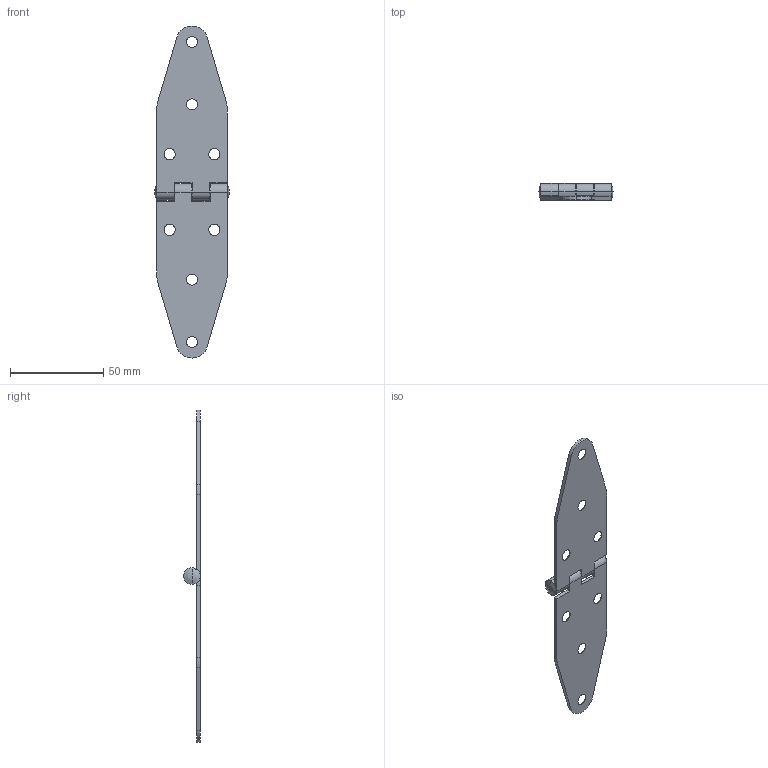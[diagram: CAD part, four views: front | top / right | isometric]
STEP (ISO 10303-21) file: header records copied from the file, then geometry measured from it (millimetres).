
FILE_DESCRIPTION(('STEP AP203'),'1');
FILE_NAME(' ',' ',('TraceParts'),('TraceParts S.A.'),'XStep 1.0',' ',' ');
FILE_SCHEMA(('CONFIG_CONTROL_DESIGN'));
Length unit declared in the file: millimetre
Products named in the file (2): 1; 2
Bounding box: 40 x 9 x 178 mm (x, y, z)
Volume: 12281.3 mm3; surface area: 13474.5 mm2
Topology: 2 solids, 2 shells, 77 faces, 227 edges, 149 vertices
Faces by surface type: cylinder 29, plane 28, cone 16, sphere 4
Entity records: 2716 total; most frequent: DIRECTION 488, CARTESIAN_POINT 451, ORIENTED_EDGE 446, EDGE_CURVE 223, AXIS2_PLACEMENT_3D 186, VERTEX_POINT 149, LINE 116, VECTOR 116
